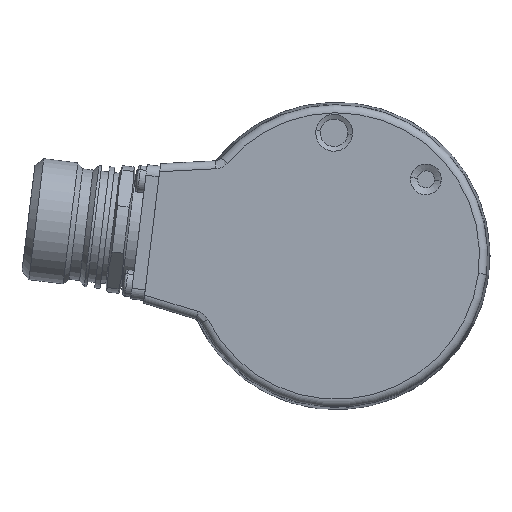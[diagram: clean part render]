
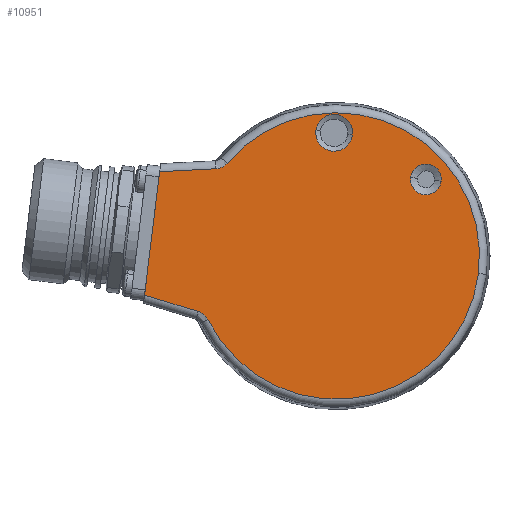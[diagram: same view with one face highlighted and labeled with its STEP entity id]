
A CAD part, left-side view. The second image highlights one B-rep face of the part: STEP entity #10951.
In plain terms, the highlighted planar face has unit normal (-1, 0, 0).
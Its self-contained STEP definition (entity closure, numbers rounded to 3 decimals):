
#2356 = DIRECTION ( 'NONE',  ( 0., 0.999, -0.052 ) ) ;
#2357 = VECTOR ( 'NONE', #2356, 1000. ) ;
#2358 = CARTESIAN_POINT ( 'NONE',  ( -30.5, 33.046, 15.919 ) ) ;
#2359 = LINE ( 'NONE', #2358, #2357 ) ;
#2441 = CARTESIAN_POINT ( 'NONE',  ( -30.5, 33.31, 15.905 ) ) ;
#2655 = CARTESIAN_POINT ( 'NONE',  ( -30.5, 22.708, 16.461 ) ) ;
#2690 = DIRECTION ( 'NONE',  ( 0., -0.993, -0.122 ) ) ;
#2691 = DIRECTION ( 'NONE',  ( -1., 0., 0. ) ) ;
#2692 = AXIS2_PLACEMENT_3D ( 'NONE', #2755, #2691, #2690 ) ;
#2755 = CARTESIAN_POINT ( 'NONE',  ( -30.5, 0., 0. ) ) ;
#2756 = CIRCLE ( 'NONE', #2692, 27.022 ) ;
#2757 = CARTESIAN_POINT ( 'NONE',  ( -30.5, 20.579, 17.512 ) ) ;
#3209 = CARTESIAN_POINT ( 'NONE',  ( -30.5, 24.797, -11.19 ) ) ;
#3210 = CARTESIAN_POINT ( 'NONE',  ( -30.5, 24.657, -11.336 ) ) ;
#3211 = CARTESIAN_POINT ( 'NONE',  ( -30.5, 24.406, -11.656 ) ) ;
#3212 = CARTESIAN_POINT ( 'NONE',  ( -30.5, 24.296, -11.83 ) ) ;
#3213 = CARTESIAN_POINT ( 'NONE',  ( -30.5, 24.205, -12.014 ) ) ;
#3219 = B_SPLINE_CURVE_WITH_KNOTS ( 'NONE', 3,
 ( #3213, #3212, #3211, #3210, #3209, #3314, #3313, #3312, #3311, #3310 ),
 .UNSPECIFIED., .F., .F.,
 ( 4, 2, 2, 2, 4 ),
 ( 0., 0.001, 0.001, 0.002, 0.002 ),
 .UNSPECIFIED. ) ;
#3273 = CARTESIAN_POINT ( 'NONE',  ( -30.5, 36.168, -7.374 ) ) ;
#3310 = CARTESIAN_POINT ( 'NONE',  ( -30.5, 26.015, -10.478 ) ) ;
#3311 = CARTESIAN_POINT ( 'NONE',  ( -30.5, 25.819, -10.538 ) ) ;
#3312 = CARTESIAN_POINT ( 'NONE',  ( -30.5, 25.632, -10.617 ) ) ;
#3313 = CARTESIAN_POINT ( 'NONE',  ( -30.5, 25.277, -10.811 ) ) ;
#3314 = CARTESIAN_POINT ( 'NONE',  ( -30.5, 25.107, -10.927 ) ) ;
#5986 = DIRECTION ( 'NONE',  ( 0., -0.993, -0.122 ) ) ;
#5987 = DIRECTION ( 'NONE',  ( 1., 0., 0. ) ) ;
#5988 = AXIS2_PLACEMENT_3D ( 'NONE', #6047, #5987, #5986 ) ;
#6047 = CARTESIAN_POINT ( 'NONE',  ( -30.5, -16.919, 14.45 ) ) ;
#6093 = CIRCLE ( 'NONE', #5988, 2.899 ) ;
#8129 = CARTESIAN_POINT ( 'NONE',  ( -30.5, 0.406, 23.246 ) ) ;
#8130 = DIRECTION ( 'NONE',  ( 0., -0.993, -0.122 ) ) ;
#8131 = DIRECTION ( 'NONE',  ( 1., 0., 0. ) ) ;
#8132 = CARTESIAN_POINT ( 'NONE',  ( -30.5, 0., 0. ) ) ;
#8133 = AXIS2_PLACEMENT_3D ( 'NONE', #8132, #8131, #8130 ) ;
#8134 = PLANE ( 'NONE',  #8133 ) ;
#8153 = DIRECTION ( 'NONE',  ( 0., -0.993, -0.122 ) ) ;
#8154 = DIRECTION ( 'NONE',  ( 1., 0., 0. ) ) ;
#8155 = AXIS2_PLACEMENT_3D ( 'NONE', #8129, #8154, #8153 ) ;
#8156 = CIRCLE ( 'NONE', #8155, 3.466 ) ;
#8167 = FACE_OUTER_BOUND ( 'NONE', #11472, .T. ) ;
#8168 = FACE_BOUND ( 'NONE', #11106, .T. ) ;
#8215 = FACE_BOUND ( 'NONE', #11174, .T. ) ;
#8673 = CARTESIAN_POINT ( 'NONE',  ( -30.5, 26.015, -10.478 ) ) ;
#8674 = DIRECTION ( 'NONE',  ( 0., -0.956, -0.292 ) ) ;
#8675 = VECTOR ( 'NONE', #8674, 1000. ) ;
#8676 = CARTESIAN_POINT ( 'NONE',  ( -30.5, 25.362, -10.678 ) ) ;
#8677 = LINE ( 'NONE', #8676, #8675 ) ;
#8838 = DIRECTION ( 'NONE',  ( 0., -0.122, 0.993 ) ) ;
#8839 = VECTOR ( 'NONE', #8838, 1000. ) ;
#8840 = CARTESIAN_POINT ( 'NONE',  ( -30.5, 36.354, -8.886 ) ) ;
#8841 = LINE ( 'NONE', #8840, #8839 ) ;
#8918 = CARTESIAN_POINT ( 'NONE',  ( -30.5, -3.034, 22.824 ) ) ;
#8977 = DIRECTION ( 'NONE',  ( 0., -0.993, -0.122 ) ) ;
#8978 = DIRECTION ( 'NONE',  ( 1., 0., 0. ) ) ;
#8979 = AXIS2_PLACEMENT_3D ( 'NONE', #9032, #8978, #8977 ) ;
#8980 = CIRCLE ( 'NONE', #8979, 3.466 ) ;
#9032 = CARTESIAN_POINT ( 'NONE',  ( -30.5, 0.406, 23.246 ) ) ;
#9306 = CARTESIAN_POINT ( 'NONE',  ( -30.5, -26.821, -3.293 ) ) ;
#9329 = CARTESIAN_POINT ( 'NONE',  ( -30.5, 3.846, 23.669 ) ) ;
#9349 = CARTESIAN_POINT ( 'NONE',  ( -30.5, 20.579, 17.512 ) ) ;
#9350 = CARTESIAN_POINT ( 'NONE',  ( -30.5, 20.712, 17.356 ) ) ;
#9351 = CARTESIAN_POINT ( 'NONE',  ( -30.5, 20.859, 17.216 ) ) ;
#9352 = CARTESIAN_POINT ( 'NONE',  ( -30.5, 21.178, 16.967 ) ) ;
#9353 = CARTESIAN_POINT ( 'NONE',  ( -30.5, 21.352, 16.857 ) ) ;
#9373 = CARTESIAN_POINT ( 'NONE',  ( -30.5, 21.716, 16.677 ) ) ;
#9374 = CARTESIAN_POINT ( 'NONE',  ( -30.5, 21.906, 16.606 ) ) ;
#9375 = CARTESIAN_POINT ( 'NONE',  ( -30.5, 22.299, 16.503 ) ) ;
#9376 = CARTESIAN_POINT ( 'NONE',  ( -30.5, 22.503, 16.471 ) ) ;
#9377 = CARTESIAN_POINT ( 'NONE',  ( -30.5, 22.708, 16.461 ) ) ;
#9383 = B_SPLINE_CURVE_WITH_KNOTS ( 'NONE', 3,
 ( #9377, #9376, #9375, #9374, #9373, #9353, #9352, #9351, #9350, #9349 ),
 .UNSPECIFIED., .F., .F.,
 ( 4, 2, 2, 2, 4 ),
 ( 0., 0.001, 0.001, 0.002, 0.002 ),
 .UNSPECIFIED. ) ;
#9390 = CARTESIAN_POINT ( 'NONE',  ( -30.5, -19.796, 14.097 ) ) ;
#9442 = CARTESIAN_POINT ( 'NONE',  ( -30.5, -14.042, 14.804 ) ) ;
#9443 = DIRECTION ( 'NONE',  ( 0., -0.993, -0.122 ) ) ;
#9444 = DIRECTION ( 'NONE',  ( 1., 0., 0. ) ) ;
#9445 = CARTESIAN_POINT ( 'NONE',  ( -30.5, -16.919, 14.45 ) ) ;
#9446 = AXIS2_PLACEMENT_3D ( 'NONE', #9445, #9444, #9443 ) ;
#9447 = CIRCLE ( 'NONE', #9446, 2.899 ) ;
#9706 = DIRECTION ( 'NONE',  ( 0., -0.993, -0.122 ) ) ;
#9707 = DIRECTION ( 'NONE',  ( -1., 0., 0. ) ) ;
#9708 = CARTESIAN_POINT ( 'NONE',  ( -30.5, 0., 0. ) ) ;
#9709 = AXIS2_PLACEMENT_3D ( 'NONE', #9708, #9707, #9706 ) ;
#9710 = CIRCLE ( 'NONE', #9709, 27.022 ) ;
#9715 = CARTESIAN_POINT ( 'NONE',  ( -30.5, 24.205, -12.014 ) ) ;
#10280 = EDGE_CURVE ( 'NONE', #11373, #11379, #6093, .T. ) ;
#10951 = ADVANCED_FACE ( 'NONE', ( #8215, #8168, #8167 ), #8134, .F. ) ;
#10952 = EDGE_CURVE ( 'NONE', #11229, #11366, #8156, .T. ) ;
#10954 = ORIENTED_EDGE ( 'NONE', *, *, #11275, .T. ) ;
#11106 = EDGE_LOOP ( 'NONE', ( #11468, #11150 ) ) ;
#11150 = ORIENTED_EDGE ( 'NONE', *, *, #10280, .T. ) ;
#11156 = ORIENTED_EDGE ( 'NONE', *, *, #11157, .T. ) ;
#11157 = EDGE_CURVE ( 'NONE', #11449, #11158, #8677, .T. ) ;
#11158 = VERTEX_POINT ( 'NONE', #8673 ) ;
#11174 = EDGE_LOOP ( 'NONE', ( #10954, #11215 ) ) ;
#11205 = EDGE_CURVE ( 'NONE', #11449, #11703, #8841, .T. ) ;
#11210 = ORIENTED_EDGE ( 'NONE', *, *, #11438, .T. ) ;
#11211 = ORIENTED_EDGE ( 'NONE', *, *, #11785, .T. ) ;
#11213 = ORIENTED_EDGE ( 'NONE', *, *, #11721, .T. ) ;
#11215 = ORIENTED_EDGE ( 'NONE', *, *, #10952, .T. ) ;
#11229 = VERTEX_POINT ( 'NONE', #8918 ) ;
#11275 = EDGE_CURVE ( 'NONE', #11366, #11229, #8980, .T. ) ;
#11366 = VERTEX_POINT ( 'NONE', #9329 ) ;
#11373 = VERTEX_POINT ( 'NONE', #9390 ) ;
#11378 = EDGE_CURVE ( 'NONE', #11379, #11373, #9447, .T. ) ;
#11379 = VERTEX_POINT ( 'NONE', #9442 ) ;
#11398 = VERTEX_POINT ( 'NONE', #9306 ) ;
#11399 = EDGE_CURVE ( 'NONE', #11762, #11786, #9383, .T. ) ;
#11438 = EDGE_CURVE ( 'NONE', #11439, #11398, #9710, .T. ) ;
#11439 = VERTEX_POINT ( 'NONE', #9715 ) ;
#11449 = VERTEX_POINT ( 'NONE', #3273 ) ;
#11468 = ORIENTED_EDGE ( 'NONE', *, *, #11378, .T. ) ;
#11469 = ORIENTED_EDGE ( 'NONE', *, *, #11470, .F. ) ;
#11470 = EDGE_CURVE ( 'NONE', #11439, #11158, #3219, .T. ) ;
#11471 = ORIENTED_EDGE ( 'NONE', *, *, #11399, .F. ) ;
#11472 = EDGE_LOOP ( 'NONE', ( #11471, #11213, #11473, #11156, #11469, #11210, #11211 ) ) ;
#11473 = ORIENTED_EDGE ( 'NONE', *, *, #11205, .F. ) ;
#11703 = VERTEX_POINT ( 'NONE', #2441 ) ;
#11721 = EDGE_CURVE ( 'NONE', #11762, #11703, #2359, .T. ) ;
#11762 = VERTEX_POINT ( 'NONE', #2655 ) ;
#11785 = EDGE_CURVE ( 'NONE', #11398, #11786, #2756, .T. ) ;
#11786 = VERTEX_POINT ( 'NONE', #2757 ) ;
